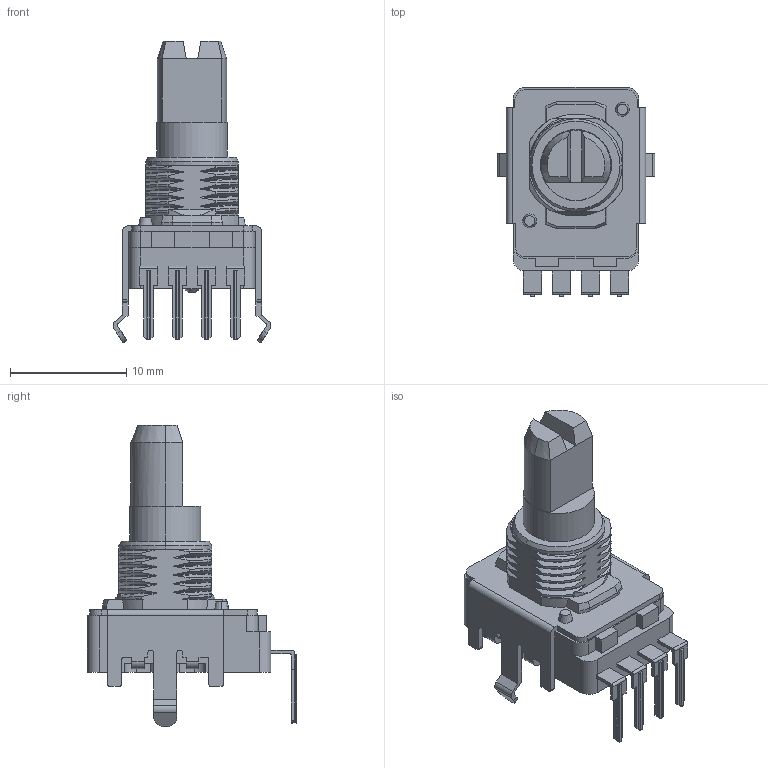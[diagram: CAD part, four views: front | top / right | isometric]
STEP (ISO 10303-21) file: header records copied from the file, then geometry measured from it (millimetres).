
FILE_DESCRIPTION (( 'STEP AP214' ), '1' );
FILE_NAME ('RK11K1140-F22.STEP', '2015-10-07T09:10:46', ( '' ), ( '' ), 'SwSTEP 2.0', 'SolidWorks 2014', '' );
FILE_SCHEMA (( 'AUTOMOTIVE_DESIGN' ));
Length unit declared in the file: millimetre
Products named in the file (1): RK11K1140-F22
Bounding box: 13.6 x 18 x 26 mm (x, y, z)
Volume: 1501.5 mm3; surface area: 1430.1 mm2
Topology: 1 solids, 1 shells, 460 faces, 1325 edges, 870 vertices
Faces by surface type: plane 245, cylinder 129, bspline 71, cone 15
Entity records: 36390 total; most frequent: CARTESIAN_POINT 19953, ORIENTED_EDGE 2650, DIRECTION 2062, EDGE_CURVE 1325, VERTEX_POINT 870, LINE 794, VECTOR 794, AXIS2_PLACEMENT_3D 634
